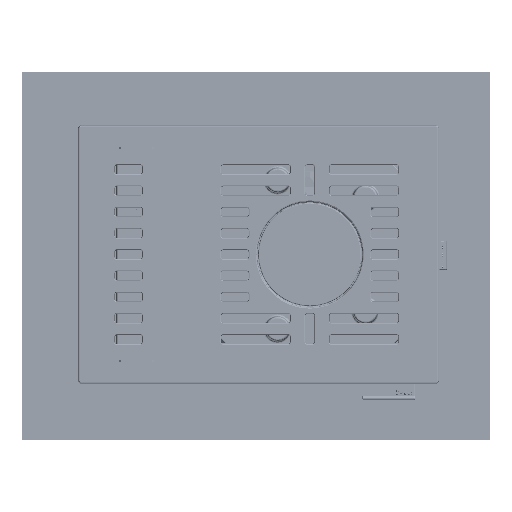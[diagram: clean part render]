
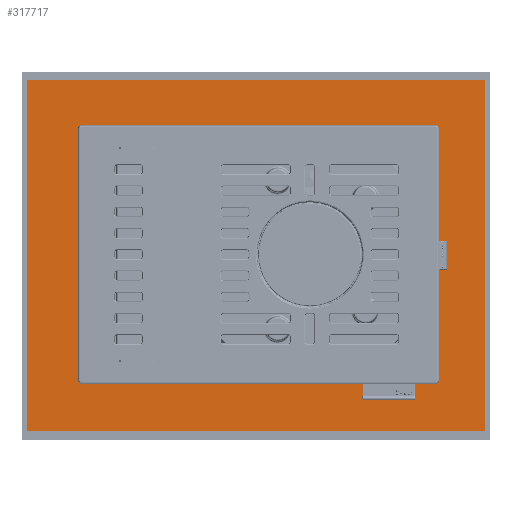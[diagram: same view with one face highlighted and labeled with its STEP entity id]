
A CAD part, top view. The second image highlights one B-rep face of the part: STEP entity #317717.
In plain terms, the highlighted planar face has unit normal (0, 0, 1).
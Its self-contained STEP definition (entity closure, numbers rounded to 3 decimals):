
#48152=ORIENTED_EDGE('',*,*,#132964,.T.);
#48153=ORIENTED_EDGE('',*,*,#132968,.T.);
#48154=ORIENTED_EDGE('',*,*,#132971,.T.);
#48155=ORIENTED_EDGE('',*,*,#132973,.T.);
#132964=EDGE_CURVE('',#176722,#176721,#208244,.T.);
#132968=EDGE_CURVE('',#176721,#176724,#208248,.T.);
#132971=EDGE_CURVE('',#176724,#176726,#208251,.T.);
#132973=EDGE_CURVE('',#176726,#176722,#208253,.T.);
#176721=VERTEX_POINT('',#487318);
#176722=VERTEX_POINT('',#487320);
#176724=VERTEX_POINT('',#487326);
#176726=VERTEX_POINT('',#487332);
#208244=LINE('',#487319,#236014);
#208248=LINE('',#487327,#236018);
#208251=LINE('',#487333,#236021);
#208253=LINE('',#487336,#236023);
#236014=VECTOR('',#389171,1000.);
#236018=VECTOR('',#389177,1000.);
#236021=VECTOR('',#389182,1000.);
#236023=VECTOR('',#389186,1000.);
#260812=EDGE_LOOP('',(#48152,#48153,#48154,#48155));
#284943=FACE_BOUND('',#260812,.T.);
#307847=PLANE('',#345538);
#317717=ADVANCED_FACE('',(#284943),#307847,.T.);
#345538=AXIS2_PLACEMENT_3D('',#487337,#389187,#389188);
#389171=DIRECTION('',(0.,1.,0.));
#389177=DIRECTION('',(-1.,0.,0.));
#389182=DIRECTION('',(0.,-1.,0.));
#389186=DIRECTION('',(1.,0.,0.));
#389187=DIRECTION('',(0.,0.,1.));
#389188=DIRECTION('',(1.,0.,0.));
#487318=CARTESIAN_POINT('',(392.,300.,9.));
#487319=CARTESIAN_POINT('',(392.,-307.5,9.));
#487320=CARTESIAN_POINT('',(392.,-300.,9.));
#487326=CARTESIAN_POINT('',(-392.,300.,9.));
#487327=CARTESIAN_POINT('',(400.,300.,9.));
#487332=CARTESIAN_POINT('',(-392.,-300.,9.));
#487333=CARTESIAN_POINT('',(-392.,307.5,9.));
#487336=CARTESIAN_POINT('',(-400.,-300.,9.));
#487337=CARTESIAN_POINT('',(400.,307.5,9.));
